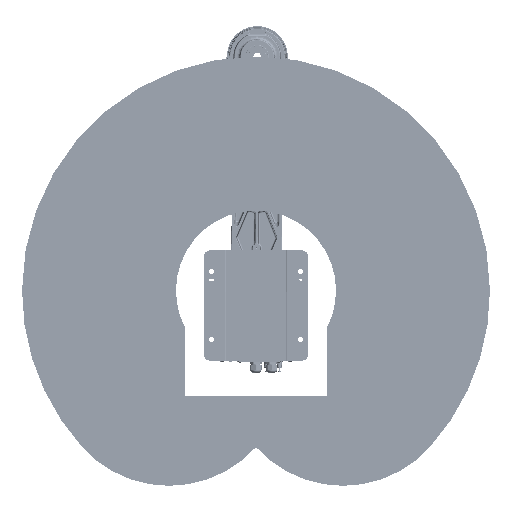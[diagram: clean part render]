
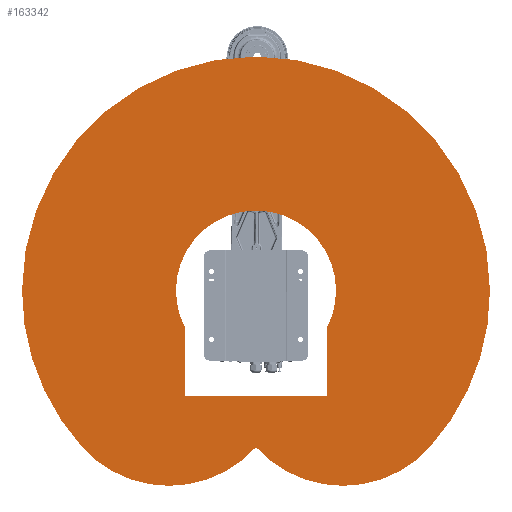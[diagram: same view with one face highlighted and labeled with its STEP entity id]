
A CAD part, front view. The second image highlights one B-rep face of the part: STEP entity #163342.
In plain terms, the highlighted planar face has unit normal (0, -1, 0) as drawn and (0, 0, 1) by its records, which use the part's own axes.
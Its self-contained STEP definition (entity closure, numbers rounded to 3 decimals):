
#5926 = DIRECTION ( 'NONE',  ( 1., 0., 0. ) ) ;
#12373 = DIRECTION ( 'NONE',  ( 1., 0., 0. ) ) ;
#18323 = CARTESIAN_POINT ( 'NONE',  ( 0., -368.022, 208. ) ) ;
#18644 = CARTESIAN_POINT ( 'NONE',  ( 0., 0., 208. ) ) ;
#19514 = CARTESIAN_POINT ( 'NONE',  ( 408.73, -368.022, 208. ) ) ;
#20893 = CARTESIAN_POINT ( 'NONE',  ( -408.73, -368.022, 208. ) ) ;
#23278 = DIRECTION ( 'NONE',  ( -1., 0., 0. ) ) ;
#27623 = ORIENTED_EDGE ( 'NONE', *, *, #41162, .T. ) ;
#30688 = ORIENTED_EDGE ( 'NONE', *, *, #204405, .F. ) ;
#33049 = DIRECTION ( 'NONE',  ( 1., 0., 0. ) ) ;
#36651 = CARTESIAN_POINT ( 'NONE',  ( 204.365, -184.011, 208. ) ) ;
#37029 = CARTESIAN_POINT ( 'NONE',  ( -188.111, 0., 208. ) ) ;
#38522 = CIRCLE ( 'NONE', #191075, 275. ) ;
#39876 = CARTESIAN_POINT ( 'NONE',  ( -168., -84.627, 208. ) ) ;
#40035 = CIRCLE ( 'NONE', #164135, 188.111 ) ;
#40937 = ORIENTED_EDGE ( 'NONE', *, *, #152484, .T. ) ;
#41162 = EDGE_CURVE ( 'NONE', #182096, #79792, #72694, .T. ) ;
#42638 = DIRECTION ( 'NONE',  ( 0., 0., -1. ) ) ;
#43684 = DIRECTION ( 'NONE',  ( 0., 0., 1. ) ) ;
#44621 = VECTOR ( 'NONE', #205303, 1000. ) ;
#44647 = CARTESIAN_POINT ( 'NONE',  ( 0., 0., 208. ) ) ;
#47010 = ORIENTED_EDGE ( 'NONE', *, *, #214251, .T. ) ;
#52014 = DIRECTION ( 'NONE',  ( 1., 0., 0. ) ) ;
#52822 = VERTEX_POINT ( 'NONE', #18323 ) ;
#54795 = LINE ( 'NONE', #72515, #87532 ) ;
#56779 = EDGE_CURVE ( 'NONE', #141247, #52822, #38522, .T. ) ;
#57723 = CIRCLE ( 'NONE', #181865, 275. ) ;
#58163 = DIRECTION ( 'NONE',  ( 1., 0., 0. ) ) ;
#59325 = PLANE ( 'NONE',  #199170 ) ;
#60155 = VERTEX_POINT ( 'NONE', #37029 ) ;
#60352 = CARTESIAN_POINT ( 'NONE',  ( 0., 0., 208. ) ) ;
#69077 = CARTESIAN_POINT ( 'NONE',  ( 0., 0., 208. ) ) ;
#70378 = EDGE_CURVE ( 'NONE', #155876, #79249, #118602, .T. ) ;
#71582 = DIRECTION ( 'NONE',  ( 1., 0., 0. ) ) ;
#72515 = CARTESIAN_POINT ( 'NONE',  ( 168., -84.627, 208. ) ) ;
#72694 = CIRCLE ( 'NONE', #214670, 550. ) ;
#73681 = CARTESIAN_POINT ( 'NONE',  ( 0., 0., 208. ) ) ;
#79249 = VERTEX_POINT ( 'NONE', #172353 ) ;
#79792 = VERTEX_POINT ( 'NONE', #105031 ) ;
#81420 = FACE_OUTER_BOUND ( 'NONE', #129099, .T. ) ;
#84398 = DIRECTION ( 'NONE',  ( 1., 0., 0. ) ) ;
#85474 = CARTESIAN_POINT ( 'NONE',  ( 0., 0., 208. ) ) ;
#87532 = VECTOR ( 'NONE', #141310, 1000. ) ;
#87771 = ORIENTED_EDGE ( 'NONE', *, *, #198718, .F. ) ;
#88101 = CARTESIAN_POINT ( 'NONE',  ( -168., -249., 208. ) ) ;
#88188 = ORIENTED_EDGE ( 'NONE', *, *, #56779, .T. ) ;
#104171 = DIRECTION ( 'NONE',  ( 0., 0., 1. ) ) ;
#105031 = CARTESIAN_POINT ( 'NONE',  ( -550., 0., 208. ) ) ;
#106695 = VERTEX_POINT ( 'NONE', #19514 ) ;
#110375 = CARTESIAN_POINT ( 'NONE',  ( -204.365, -184.011, 208. ) ) ;
#110389 = DIRECTION ( 'NONE',  ( -1., 0., 0. ) ) ;
#111272 = CIRCLE ( 'NONE', #185807, 550. ) ;
#117584 = ORIENTED_EDGE ( 'NONE', *, *, #165030, .T. ) ;
#118602 = LINE ( 'NONE', #185279, #203428 ) ;
#127116 = ORIENTED_EDGE ( 'NONE', *, *, #192703, .F. ) ;
#129099 = EDGE_LOOP ( 'NONE', ( #117584, #40937, #27623, #47010, #88188 ) ) ;
#131918 = CARTESIAN_POINT ( 'NONE',  ( 550., 0., 208. ) ) ;
#135282 = LINE ( 'NONE', #186470, #44621 ) ;
#136770 = DIRECTION ( 'NONE',  ( 0., 0., 1. ) ) ;
#140325 = CARTESIAN_POINT ( 'NONE',  ( 168., -84.627, 208. ) ) ;
#141247 = VERTEX_POINT ( 'NONE', #20893 ) ;
#141310 = DIRECTION ( 'NONE',  ( 0., 1., 0. ) ) ;
#142602 = VERTEX_POINT ( 'NONE', #173939 ) ;
#143721 = AXIS2_PLACEMENT_3D ( 'NONE', #18644, #104171, #52014 ) ;
#145564 = EDGE_LOOP ( 'NONE', ( #167194, #87771, #218995, #203347, #30688, #127116 ) ) ;
#149121 = FACE_BOUND ( 'NONE', #145564, .T. ) ;
#149767 = CIRCLE ( 'NONE', #213795, 550. ) ;
#150838 = CIRCLE ( 'NONE', #143721, 188.111 ) ;
#152484 = EDGE_CURVE ( 'NONE', #106695, #182096, #149767, .T. ) ;
#155876 = VERTEX_POINT ( 'NONE', #88101 ) ;
#157310 = EDGE_CURVE ( 'NONE', #216700, #142602, #150838, .T. ) ;
#161427 = DIRECTION ( 'NONE',  ( 0., 0., 1. ) ) ;
#163342 = ADVANCED_FACE ( 'NONE', ( #81420, #149121 ), #59325, .F. ) ;
#164135 = AXIS2_PLACEMENT_3D ( 'NONE', #69077, #136770, #203506 ) ;
#164505 = DIRECTION ( 'NONE',  ( 0., 0., 1. ) ) ;
#165030 = EDGE_CURVE ( 'NONE', #52822, #106695, #57723, .T. ) ;
#167194 = ORIENTED_EDGE ( 'NONE', *, *, #157310, .F. ) ;
#172353 = CARTESIAN_POINT ( 'NONE',  ( 168., -249., 208. ) ) ;
#173939 = CARTESIAN_POINT ( 'NONE',  ( 188.111, 0., 208. ) ) ;
#181865 = AXIS2_PLACEMENT_3D ( 'NONE', #36651, #192163, #23278 ) ;
#182096 = VERTEX_POINT ( 'NONE', #131918 ) ;
#185279 = CARTESIAN_POINT ( 'NONE',  ( -168., -249., 208. ) ) ;
#185807 = AXIS2_PLACEMENT_3D ( 'NONE', #60352, #43684, #58163 ) ;
#186470 = CARTESIAN_POINT ( 'NONE',  ( -168., -84.627, 208. ) ) ;
#191075 = AXIS2_PLACEMENT_3D ( 'NONE', #110375, #161427, #71582 ) ;
#191452 = DIRECTION ( 'NONE',  ( 0., 0., 1. ) ) ;
#192163 = DIRECTION ( 'NONE',  ( 0., 0., 1. ) ) ;
#192703 = EDGE_CURVE ( 'NONE', #142602, #60155, #40035, .T. ) ;
#194833 = CARTESIAN_POINT ( 'NONE',  ( 0., -184.011, 208. ) ) ;
#195583 = EDGE_CURVE ( 'NONE', #211494, #155876, #135282, .T. ) ;
#198718 = EDGE_CURVE ( 'NONE', #79249, #216700, #54795, .T. ) ;
#199170 = AXIS2_PLACEMENT_3D ( 'NONE', #194833, #42638, #110389 ) ;
#200999 = CIRCLE ( 'NONE', #215194, 188.111 ) ;
#203347 = ORIENTED_EDGE ( 'NONE', *, *, #195583, .F. ) ;
#203428 = VECTOR ( 'NONE', #33049, 1000. ) ;
#203506 = DIRECTION ( 'NONE',  ( 1., 0., 0. ) ) ;
#204405 = EDGE_CURVE ( 'NONE', #60155, #211494, #200999, .T. ) ;
#205303 = DIRECTION ( 'NONE',  ( 0., -1., 0. ) ) ;
#211494 = VERTEX_POINT ( 'NONE', #39876 ) ;
#213795 = AXIS2_PLACEMENT_3D ( 'NONE', #44647, #164505, #12373 ) ;
#214251 = EDGE_CURVE ( 'NONE', #79792, #141247, #111272, .T. ) ;
#214670 = AXIS2_PLACEMENT_3D ( 'NONE', #73681, #191452, #5926 ) ;
#215194 = AXIS2_PLACEMENT_3D ( 'NONE', #85474, #216676, #84398 ) ;
#216676 = DIRECTION ( 'NONE',  ( 0., 0., 1. ) ) ;
#216700 = VERTEX_POINT ( 'NONE', #140325 ) ;
#218995 = ORIENTED_EDGE ( 'NONE', *, *, #70378, .F. ) ;
